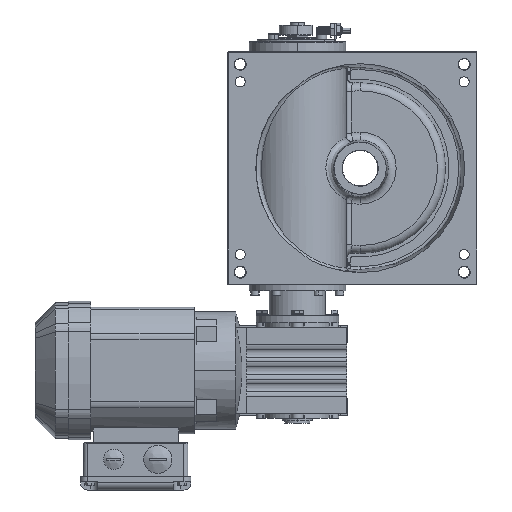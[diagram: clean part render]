
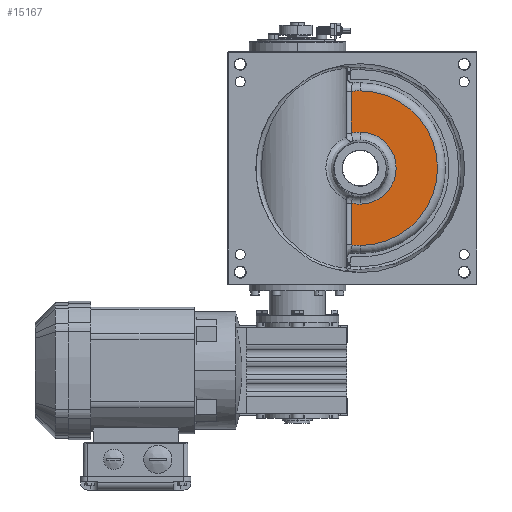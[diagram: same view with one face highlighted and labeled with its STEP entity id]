
A CAD part, front view. The second image highlights one B-rep face of the part: STEP entity #15167.
In plain terms, the highlighted planar face has unit normal (0, -1, 0).
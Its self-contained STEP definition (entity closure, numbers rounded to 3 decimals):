
#637 = EDGE_CURVE ( 'NONE', #62538, #53449, #12565, .T. ) ;
#1086 = EDGE_CURVE ( 'NONE', #67986, #68927, #60460, .T. ) ;
#3581 = ORIENTED_EDGE ( 'NONE', *, *, #51475, .T. ) ;
#4021 = VECTOR ( 'NONE', #22053, 1000. ) ;
#5278 = DIRECTION ( 'NONE',  ( 0., -1., 0. ) ) ;
#6608 = AXIS2_PLACEMENT_3D ( 'NONE', #64796, #5278, #58759 ) ;
#9413 = DIRECTION ( 'NONE',  ( 0., 0., -1. ) ) ;
#9692 = DIRECTION ( 'NONE',  ( 0., 0., -1. ) ) ;
#9867 = CARTESIAN_POINT ( 'NONE',  ( -8.737, 63.6, -75.8 ) ) ;
#10253 = AXIS2_PLACEMENT_3D ( 'NONE', #63530, #14810, #58242 ) ;
#11405 = AXIS2_PLACEMENT_3D ( 'NONE', #42946, #64266, #9413 ) ;
#12565 = CIRCLE ( 'NONE', #10253, 35.841 ) ;
#13113 = CARTESIAN_POINT ( 'NONE',  ( 0., 63.6, 0. ) ) ;
#14810 = DIRECTION ( 'NONE',  ( 0., 1., 0. ) ) ;
#15012 = CARTESIAN_POINT ( 'NONE',  ( -8.737, 63.6, 76.507 ) ) ;
#15167 = ADVANCED_FACE ( 'NONE', ( #43100 ), #37823, .T. ) ;
#17237 = CARTESIAN_POINT ( 'NONE',  ( -8.737, 63.6, -76.507 ) ) ;
#18361 = VERTEX_POINT ( 'NONE', #15012 ) ;
#21868 = ORIENTED_EDGE ( 'NONE', *, *, #637, .T. ) ;
#22053 = DIRECTION ( 'NONE',  ( 0., 0., -1. ) ) ;
#22843 = VERTEX_POINT ( 'NONE', #17237 ) ;
#23227 = CARTESIAN_POINT ( 'NONE',  ( 0., 63.6, 77.004 ) ) ;
#25102 = CARTESIAN_POINT ( 'NONE',  ( -8.737, 63.6, 33.175 ) ) ;
#26411 = VECTOR ( 'NONE', #9692, 1000. ) ;
#28250 = CARTESIAN_POINT ( 'NONE',  ( 0., 63.6, 0. ) ) ;
#28854 = DIRECTION ( 'NONE',  ( 0., 0., -1. ) ) ;
#29251 = EDGE_CURVE ( 'NONE', #53449, #44447, #70530, .T. ) ;
#32142 = CARTESIAN_POINT ( 'NONE',  ( -8.737, 63.6, 34.76 ) ) ;
#34294 = AXIS2_PLACEMENT_3D ( 'NONE', #28250, #48587, #70225 ) ;
#34709 = CARTESIAN_POINT ( 'NONE',  ( 0., 63.6, 0. ) ) ;
#35659 = ORIENTED_EDGE ( 'NONE', *, *, #51816, .T. ) ;
#36395 = DIRECTION ( 'NONE',  ( 0., -1., 0. ) ) ;
#36587 = CIRCLE ( 'NONE', #34294, 77.004 ) ;
#37780 = CARTESIAN_POINT ( 'NONE',  ( 0., 63.6, 0. ) ) ;
#37823 = PLANE ( 'NONE',  #6608 ) ;
#39455 = ORIENTED_EDGE ( 'NONE', *, *, #65844, .T. ) ;
#40937 = DIRECTION ( 'NONE',  ( 0., 1., 0. ) ) ;
#42294 = EDGE_CURVE ( 'NONE', #44447, #47100, #58636, .T. ) ;
#42946 = CARTESIAN_POINT ( 'NONE',  ( 0., 63.6, 0. ) ) ;
#43100 = FACE_OUTER_BOUND ( 'NONE', #63650, .T. ) ;
#43805 = CARTESIAN_POINT ( 'NONE',  ( -8.737, 63.6, -34.76 ) ) ;
#44447 = VERTEX_POINT ( 'NONE', #60468 ) ;
#47100 = VERTEX_POINT ( 'NONE', #43805 ) ;
#48587 = DIRECTION ( 'NONE',  ( 0., -1., 0. ) ) ;
#49011 = ORIENTED_EDGE ( 'NONE', *, *, #42294, .T. ) ;
#51475 = EDGE_CURVE ( 'NONE', #22843, #67986, #62610, .T. ) ;
#51816 = EDGE_CURVE ( 'NONE', #68927, #18361, #36587, .T. ) ;
#52390 = EDGE_CURVE ( 'NONE', #18361, #62538, #64198, .T. ) ;
#53449 = VERTEX_POINT ( 'NONE', #59108 ) ;
#54937 = ORIENTED_EDGE ( 'NONE', *, *, #1086, .T. ) ;
#58242 = DIRECTION ( 'NONE',  ( 0., 0., -1. ) ) ;
#58636 = CIRCLE ( 'NONE', #63125, 35.841 ) ;
#58657 = CARTESIAN_POINT ( 'NONE',  ( 0., 63.6, -77.004 ) ) ;
#58759 = DIRECTION ( 'NONE',  ( 0., 0., -1. ) ) ;
#59108 = CARTESIAN_POINT ( 'NONE',  ( 0., 63.6, 35.841 ) ) ;
#59157 = DIRECTION ( 'NONE',  ( 0., 1., 0. ) ) ;
#59220 = AXIS2_PLACEMENT_3D ( 'NONE', #34709, #59157, #69126 ) ;
#59518 = ORIENTED_EDGE ( 'NONE', *, *, #29251, .T. ) ;
#60082 = LINE ( 'NONE', #9867, #4021 ) ;
#60399 = AXIS2_PLACEMENT_3D ( 'NONE', #37780, #36395, #64390 ) ;
#60460 = CIRCLE ( 'NONE', #60399, 77.004 ) ;
#60468 = CARTESIAN_POINT ( 'NONE',  ( 0., 63.6, -35.841 ) ) ;
#62538 = VERTEX_POINT ( 'NONE', #32142 ) ;
#62610 = CIRCLE ( 'NONE', #11405, 77.004 ) ;
#63125 = AXIS2_PLACEMENT_3D ( 'NONE', #13113, #40937, #28854 ) ;
#63530 = CARTESIAN_POINT ( 'NONE',  ( 0., 63.6, 0. ) ) ;
#63650 = EDGE_LOOP ( 'NONE', ( #3581, #54937, #35659, #63774, #21868, #59518, #49011, #39455 ) ) ;
#63774 = ORIENTED_EDGE ( 'NONE', *, *, #52390, .T. ) ;
#64198 = LINE ( 'NONE', #25102, #26411 ) ;
#64266 = DIRECTION ( 'NONE',  ( 0., -1., 0. ) ) ;
#64390 = DIRECTION ( 'NONE',  ( 0., 0., -1. ) ) ;
#64796 = CARTESIAN_POINT ( 'NONE',  ( 0., 63.6, 0. ) ) ;
#65844 = EDGE_CURVE ( 'NONE', #47100, #22843, #60082, .T. ) ;
#67986 = VERTEX_POINT ( 'NONE', #58657 ) ;
#68927 = VERTEX_POINT ( 'NONE', #23227 ) ;
#69126 = DIRECTION ( 'NONE',  ( 0., 0., -1. ) ) ;
#70225 = DIRECTION ( 'NONE',  ( 0., 0., -1. ) ) ;
#70530 = CIRCLE ( 'NONE', #59220, 35.841 ) ;
